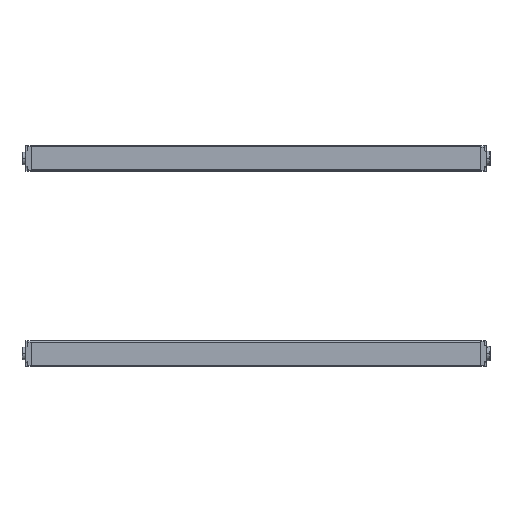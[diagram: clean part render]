
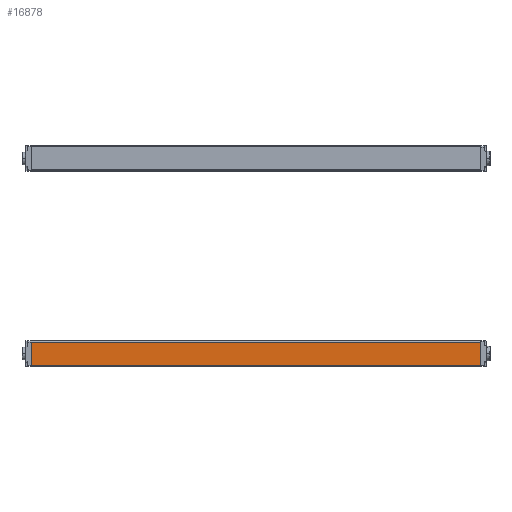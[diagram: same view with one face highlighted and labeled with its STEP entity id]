
A CAD part, left-side view. The second image highlights one B-rep face of the part: STEP entity #16878.
In plain terms, the highlighted planar face has unit normal (-1, 0, -0.009) as drawn and (1, 0, 0) by its records, which use the part's own axes.
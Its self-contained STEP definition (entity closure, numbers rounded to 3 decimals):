
#597 = CARTESIAN_POINT ( 'NONE',  ( 15., 530., 10.9 ) ) ;
#733 = CARTESIAN_POINT ( 'NONE',  ( 15., 530., 10.9 ) ) ;
#1609 = DIRECTION ( 'NONE',  ( -1., 0., 0. ) ) ;
#1958 = VERTEX_POINT ( 'NONE', #9276 ) ;
#2417 = LINE ( 'NONE', #7975, #13862 ) ;
#2512 = DIRECTION ( 'NONE',  ( 0., 0., -1. ) ) ;
#2981 = FACE_OUTER_BOUND ( 'NONE', #5863, .T. ) ;
#3017 = VECTOR ( 'NONE', #2512, 1000. ) ;
#3966 = LINE ( 'NONE', #9521, #15298 ) ;
#3987 = VECTOR ( 'NONE', #6307, 1000. ) ;
#5470 = CARTESIAN_POINT ( 'NONE',  ( 15., 530., -16.693 ) ) ;
#5863 = EDGE_LOOP ( 'NONE', ( #6477, #6318, #14860, #11560 ) ) ;
#6307 = DIRECTION ( 'NONE',  ( 0., -1., 0. ) ) ;
#6318 = ORIENTED_EDGE ( 'NONE', *, *, #12822, .T. ) ;
#6477 = ORIENTED_EDGE ( 'NONE', *, *, #15365, .T. ) ;
#7174 = DIRECTION ( 'NONE',  ( 0., 0., 1. ) ) ;
#7277 = EDGE_CURVE ( 'NONE', #15668, #16327, #10789, .T. ) ;
#7518 = CARTESIAN_POINT ( 'NONE',  ( 15., 0., -16.693 ) ) ;
#7975 = CARTESIAN_POINT ( 'NONE',  ( 15., 0., -16.9 ) ) ;
#8530 = PLANE ( 'NONE',  #11296 ) ;
#9276 = CARTESIAN_POINT ( 'NONE',  ( 15., 0., 10.9 ) ) ;
#9521 = CARTESIAN_POINT ( 'NONE',  ( 15., 530., -16.693 ) ) ;
#10789 = LINE ( 'NONE', #14976, #3017 ) ;
#11296 = AXIS2_PLACEMENT_3D ( 'NONE', #14081, #1609, #7174 ) ;
#11560 = ORIENTED_EDGE ( 'NONE', *, *, #13657, .T. ) ;
#12822 = EDGE_CURVE ( 'NONE', #15601, #16327, #3966, .T. ) ;
#13202 = LINE ( 'NONE', #733, #3987 ) ;
#13522 = DIRECTION ( 'NONE',  ( 0., 0., -1. ) ) ;
#13657 = EDGE_CURVE ( 'NONE', #15668, #1958, #13202, .T. ) ;
#13862 = VECTOR ( 'NONE', #13522, 1000. ) ;
#14081 = CARTESIAN_POINT ( 'NONE',  ( 15., 530., -16.9 ) ) ;
#14860 = ORIENTED_EDGE ( 'NONE', *, *, #7277, .F. ) ;
#14976 = CARTESIAN_POINT ( 'NONE',  ( 15., 530., -16.9 ) ) ;
#15071 = DIRECTION ( 'NONE',  ( 0., 1., 0. ) ) ;
#15298 = VECTOR ( 'NONE', #15071, 1000. ) ;
#15365 = EDGE_CURVE ( 'NONE', #1958, #15601, #2417, .T. ) ;
#15601 = VERTEX_POINT ( 'NONE', #7518 ) ;
#15668 = VERTEX_POINT ( 'NONE', #597 ) ;
#16327 = VERTEX_POINT ( 'NONE', #5470 ) ;
#16878 = ADVANCED_FACE ( 'NONE', ( #2981 ), #8530, .F. ) ;
